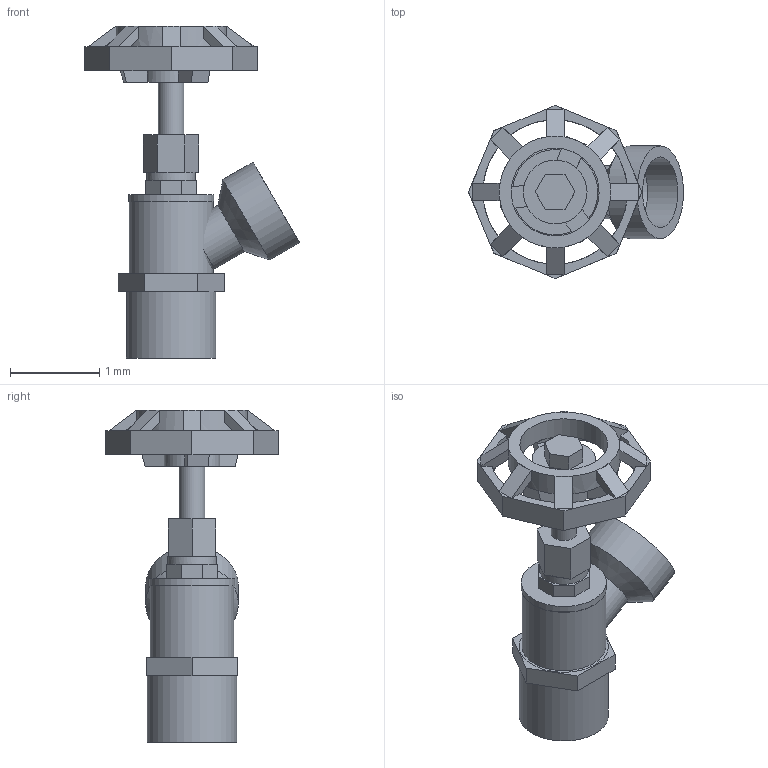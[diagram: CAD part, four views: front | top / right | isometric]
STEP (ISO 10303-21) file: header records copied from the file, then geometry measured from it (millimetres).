
FILE_DESCRIPTION(('Open CASCADE Model'),'2;1');
FILE_NAME('Open CASCADE Shape Model','2021-08-18T13:26:27',('Author'),( 'Open CASCADE'),'Open CASCADE STEP processor 7.3','Open CASCADE 7.3' ,'Unknown');
FILE_SCHEMA(('AUTOMOTIVE_DESIGN { 1 0 10303 214 1 1 1 1 }'));
Length unit declared in the file: millimetre
Products named in the file (146): Open CASCADE STEP translator 7.3 1; Open CASCADE STEP translator 7.3 1.1; Open CASCADE STEP translator 7.3 1.2; Open CASCADE STEP translator 7.3 1.3; Open CASCADE STEP translator 7.3 1.4; Open CASCADE STEP translator 7.3 1.5; Open CASCADE STEP translator 7.3 1.6; Open CASCADE STEP translator 7.3 1.7; Open CASCADE STEP translator 7.3 1.8; Open CASCADE STEP translator 7.3 1.9; Open CASCADE STEP translator 7.3 1.10; Open CASCADE STEP translator 7.3 1.11; Open CASCADE STEP translator 7.3 1.12; Open CASCADE STEP translator 7.3 1.13; Open CASCADE STEP translator 7.3 1.14; Open CASCADE STEP translator 7.3 1.15; Open CASCADE STEP translator 7.3 1.16; Open CASCADE STEP translator 7.3 1.17; Open CASCADE STEP translator 7.3 1.18; Open CASCADE STEP translator 7.3 1.19; Open CASCADE STEP translator 7.3 1.20; Open CASCADE STEP translator 7.3 1.21; Open CASCADE STEP translator 7.3 1.22; Open CASCADE STEP translator 7.3 1.23; Open CASCADE STEP translator 7.3 1.24; Open CASCADE STEP translator 7.3 1.25; Open CASCADE STEP translator 7.3 1.26; Open CASCADE STEP translator 7.3 1.27; Open CASCADE STEP translator 7.3 1.28; Open CASCADE STEP translator 7.3 1.29; Open CASCADE STEP translator 7.3 1.30; Open CASCADE STEP translator 7.3 1.31; Open CASCADE STEP translator 7.3 1.32; Open CASCADE STEP translator 7.3 1.33; Open CASCADE STEP translator 7.3 1.34; Open CASCADE STEP translator 7.3 1.35; Open CASCADE STEP translator 7.3 1.36; Open CASCADE STEP translator 7.3 1.37; Open CASCADE STEP translator 7.3 1.38; Open CASCADE STEP translator 7.3 1.39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
Assembly tree (145 placements, depth 2):
  Open CASCADE STEP translator 7.3 1
    Open CASCADE STEP translator 7.3 1.1
    Open CASCADE STEP translator 7.3 1.2
    Open CASCADE STEP translator 7.3 1.3
    Open CASCADE STEP translator 7.3 1.4
    Open CASCADE STEP translator 7.3 1.5
    Open CASCADE STEP translator 7.3 1.6
    Open CASCADE STEP translator 7.3 1.7
    Open CASCADE STEP translator 7.3 1.8
    Open CASCADE STEP translator 7.3 1.9
    Open CASCADE STEP translator 7.3 1.10
    Open CASCADE STEP translator 7.3 1.11
    Open CASCADE STEP translator 7.3 1.12
    Open CASCADE STEP translator 7.3 1.13
    Open CASCADE STEP translator 7.3 1.14
    Open CASCADE STEP translator 7.3 1.15
    Open CASCADE STEP translator 7.3 1.16
    Open CASCADE STEP translator 7.3 1.17
    Open CASCADE STEP translator 7.3 1.18
    Open CASCADE STEP translator 7.3 1.19
    Open CASCADE STEP translator 7.3 1.20
    Open CASCADE STEP translator 7.3 1.21
    Open CASCADE STEP translator 7.3 1.22
    Open CASCADE STEP translator 7.3 1.23
    Open CASCADE STEP translator 7.3 1.24
    Open CASCADE STEP translator 7.3 1.25
    Open CASCADE STEP translator 7.3 1.26
    Open CASCADE STEP translator 7.3 1.27
    Open CASCADE STEP translator 7.3 1.28
    Open CASCADE STEP translator 7.3 1.29
    Open CASCADE STEP translator 7.3 1.30
    Open CASCADE STEP translator 7.3 1.31
    Open CASCADE STEP translator 7.3 1.32
    Open CASCADE STEP translator 7.3 1.33
    Open CASCADE STEP translator 7.3 1.34
    Open CASCADE STEP translator 7.3 1.35
    Open CASCADE STEP translator 7.3 1.36
    Open CASCADE STEP translator 7.3 1.37
    Open CASCADE STEP translator 7.3 1.38
    Open CASCADE STEP translator 7.3 1.39
    Open CASCADE STEP translator 7.3 1.40
    Open CASCADE STEP translator 7.3 1.41
    Open CASCADE STEP translator 7.3 1.42
    Open CASCADE STEP translator 7.3 1.43
    Open CASCADE STEP translator 7.3 1.44
    Open CASCADE STEP translator 7.3 1.45
    Open CASCADE STEP translator 7.3 1.46
    Open CASCADE STEP translator 7.3 1.47
    Open CASCADE STEP translator 7.3 1.48
    Open CASCADE STEP translator 7.3 1.49
    Open CASCADE STEP translator 7.3 1.50
    Open CASCADE STEP translator 7.3 1.51
    Open CASCADE STEP translator 7.3 1.52
    Open CASCADE STEP translator 7.3 1.53
    Open CASCADE STEP translator 7.3 1.54
    Open CASCADE STEP translator 7.3 1.55
    Open CASCADE STEP translator 7.3 1.56
    Open CASCADE STEP translator 7.3 1.57
    Open CASCADE STEP translator 7.3 1.58
    Open CASCADE STEP translator 7.3 1.59
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Bounding box: 2.41 x 1.94 x 3.72 mm (x, y, z)
Volume: 0.4 mm3; surface area: 30.1 mm2
Topology: 5 solids, 145 shells, 173 faces, 776 edges, 741 vertices
Faces by surface type: plane 144, cylinder 27, cone 2
Full cylindrical faces by diameter (mm): 0.285 x1, 0.475 x2, 0.545 x1, 0.597 x1, 0.6 x1, 0.615 x1, 0.62 x1, 0.715 x1, 0.79 x1, 0.82 x1, 0.94 x1, 0.955 x1, 0.985 x1, 1.001 x2, 1.04 x1, 1.25 x1, 1.62 x1
Entity records: 17312 total; most frequent: CARTESIAN_POINT 3720, DIRECTION 2352, LINE 1228, VECTOR 1228, ORIENTED_EDGE 840, PCURVE 840, DEFINITIONAL_REPRESENTATION 840, EDGE_CURVE 776
